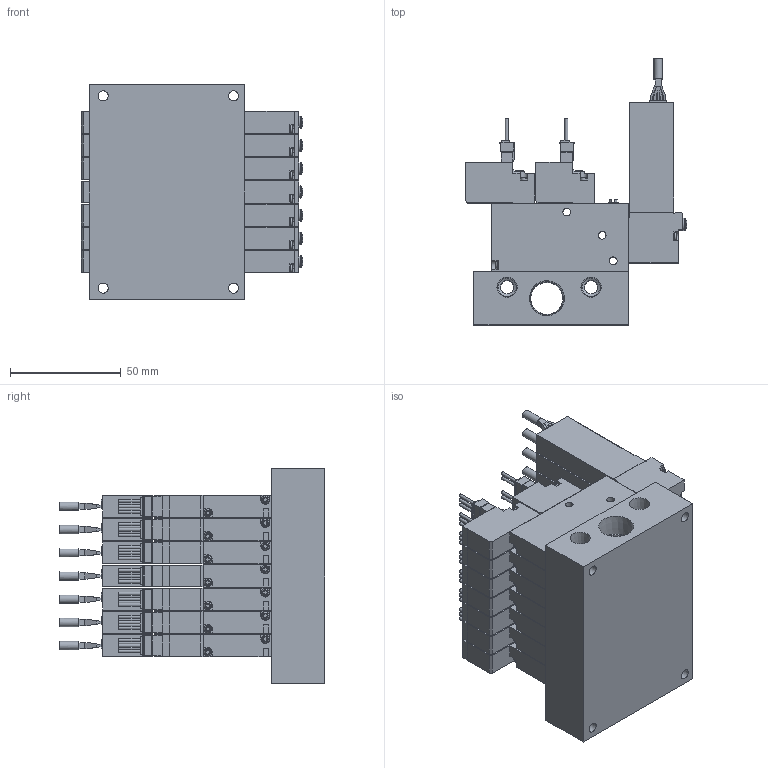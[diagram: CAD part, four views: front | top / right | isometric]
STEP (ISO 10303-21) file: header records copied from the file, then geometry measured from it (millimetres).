
FILE_DESCRIPTION(('STEP AP203'),'1');
FILE_NAME('BMPV42MV9.V9P5W707.stp','2025-04-30T06:20:10',(' '),(' '),'Spatial InterOp 3D',' ',' ');
FILE_SCHEMA(('CONFIG_CONTROL_DESIGN'));
Length unit declared in the file: millimetre
Products named in the file (14): BMPV42MV9.V9P5W707; VACUUM VALVE FUNCTION MPV42-W; VACUUM SENSOR MPV42-V9; VACUUM VALVE FUNCTION MPV42-A; UNIT-MPV42; MC4-M7
Assembly tree (29 placements, depth 2):
  BMPV42MV9.V9P5W707
    VACUUM VALVE FUNCTION MPV42-W  x5
    VACUUM SENSOR MPV42-V9  x5
    VACUUM VALVE FUNCTION MPV42-A  x5
    UNIT-MPV42  x5
    VACUUM VALVE FUNCTION MPV42-W
    VACUUM VALVE FUNCTION MPV42-A
    UNIT-MPV42
    VACUUM SENSOR MPV42-V9
    MC4-M7
    VACUUM VALVE FUNCTION MPV42-W
    VACUUM VALVE FUNCTION MPV42-A
    UNIT-MPV42
    VACUUM SENSOR MPV42-V9
Bounding box: 100.35 x 120.3 x 97 mm (x, y, z)
Volume: 448328.1 mm3; surface area: 146877.7 mm2
Topology: 29 solids, 29 shells, 2714 faces, 7342 edges, 4861 vertices
Faces by surface type: plane 2120, cylinder 480, cone 44, sphere 35, torus 35
Full cylindrical faces by diameter (mm): 1.4 x35, 1.8 x7, 2.2 x14, 3 x28, 3.5 x77, 3.8 x7, 4.134 x14, 4.5 x4, 5 x7, 5.5 x7, 6 x2, 8.2 x4, 14.5 x1
Entity records: 37154 total; most frequent: CARTESIAN_POINT 7123, ORIENTED_EDGE 5948, DIRECTION 5900, EDGE_CURVE 2974, LINE 2340, VECTOR 2340, VERTEX_POINT 2049, AXIS2_PLACEMENT_3D 1780
